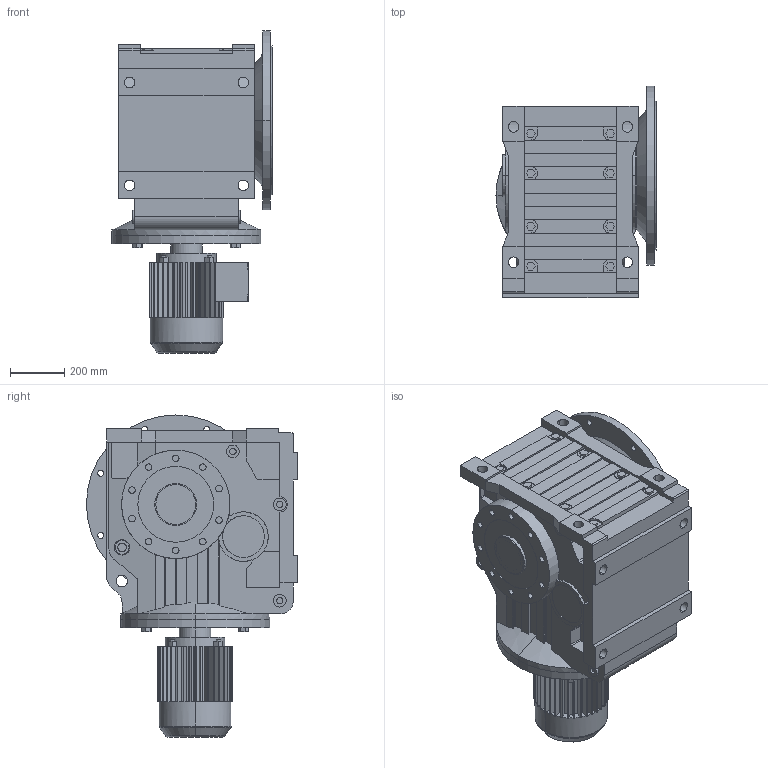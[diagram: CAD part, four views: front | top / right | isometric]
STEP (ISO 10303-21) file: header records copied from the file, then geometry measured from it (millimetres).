
FILE_DESCRIPTION(('Open CASCADE Model'),'2;1');
FILE_NAME('Open CASCADE Shape Model','2021-07-20T14:36:10',('Author'),( 'Open CASCADE'),'Open CASCADE STEP processor 6.3','Open CASCADE 6.3' ,'Unknown');
FILE_SCHEMA(('AUTOMOTIVE_DESIGN_CC2 { 1 2 10303 214 -1 1 5 4 }'));
Length unit declared in the file: millimetre
Products named in the file (5): 1_KAF157DV160M-A; KA127‵157_157.step; 萇儂_550-DV160M-433-545-275-230.step; す瑩諾陑粣K_157.step; 楊擘K_157.step
Assembly tree (4 placements, depth 2):
  1_KAF157DV160M-A
    KA127‵157_157.step
    萇儂_550-DV160M-433-545-275-230.step
    す瑩諾陑粣K_157.step
    楊擘K_157.step
Bounding box: 591 x 780 x 1189 mm (x, y, z)
Volume: 215749925.2 mm3; surface area: 5506925.8 mm2
Topology: 4 solids, 4 shells, 940 faces, 2454 edges, 1599 vertices
Faces by surface type: plane 604, cylinder 322, cone 10, torus 4
Entity records: 67336 total; most frequent: CARTESIAN_POINT 21025, DIRECTION 7855, ORIENTED_EDGE 4908, PCURVE 4908, DEFINITIONAL_REPRESENTATION 4908, LINE 4035, VECTOR 4035, EDGE_CURVE 2454
